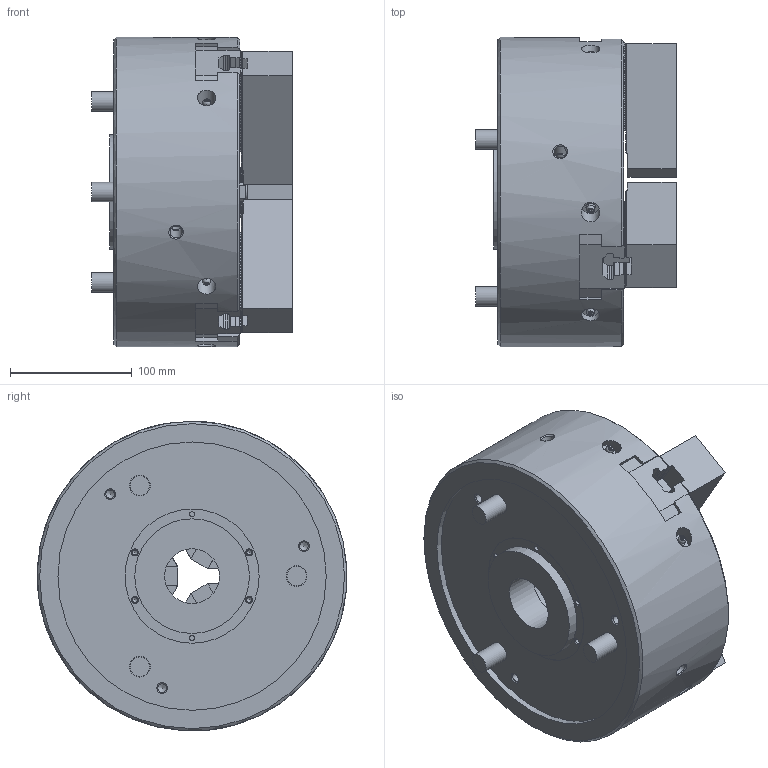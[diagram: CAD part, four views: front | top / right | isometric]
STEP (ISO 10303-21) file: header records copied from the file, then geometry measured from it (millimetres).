
FILE_DESCRIPTION (( 'STEP AP214' ), '1' );
FILE_NAME ('BS310_OC.STEP', '2019-12-23T01:44:31', ( '' ), ( '' ), 'SwSTEP 2.0', 'SolidWorks 2017', '' );
FILE_SCHEMA (( 'AUTOMOTIVE_DESIGN' ));
Length unit declared in the file: millimetre
Products named in the file (18): B傾僫僣僉 M12亊302_~30; BS310^61P242457-2_僋儈僞僥_^_e_棉太倌I佱UA; BS310_OC; 61P417262-1_T僫僢僩b_g; P31633-7_ソフトジョー_W_‡_[; 61P417262-1_T僫僢僩b_g_棉太倌佱UA; P31633-7_ソフトジョー_W_‡_[_ﾃﾞﾌｫﾙﾄ_ATI≪UA; BS310^61P242457-2_クミタテ_^_e; B傾僫僣僉 M12亊302_~30_棉太倌TI佱UA
Assembly tree (13 placements, depth 2):
  B傾僫僣僉 M12亊302_~30
  BS310_OC
    61P417262-1_T僫僢僩b_g_棉太倌佱UA  x3
    P31633-7_ソフトジョー_W_‡_[_ﾃﾞﾌｫﾙﾄ_ATI≪UA  x3
    B傾僫僣僉 M12亊302_~30_棉太倌TI佱UA  x6
    BS310^61P242457-2_僋儈僞僥_^_e_棉太倌I佱UA
  61P417262-1_T僫僢僩b_g
  B傾僫僣僉 M12亊302_~30
  P31633-7_ソフトジョー_W_‡_[
Bounding box: 164.4 x 253.74 x 253.78 mm (x, y, z)
Volume: 5100880.6 mm3; surface area: 370827.4 mm2
Topology: 13 solids, 23 shells, 3003 faces, 8633 edges, 5736 vertices
Faces by surface type: plane 2760, cylinder 131, cone 85, torus 15, sphere 12
Full cylindrical faces by diameter (mm): 1.9 x6, 4.2 x6, 7 x3, 8.5 x3, 9 x6, 10 x3, 10.5 x3, 11 x3, 12 x12, 13 x6, 15 x6, 16 x3, 17 x3, 18 x6, 19 x6, 24 x3, 25 x3, 45 x1, 75 x2, 78 x1, 86 x1, 94 x1, 110 x1, 220 x1, 254 x1
Entity records: 69044 total; most frequent: CARTESIAN_POINT 13474, ORIENTED_EDGE 11892, DIRECTION 10486, EDGE_CURVE 5946, LINE 5402, VECTOR 5402, VERTEX_POINT 4006, AXIS2_PLACEMENT_3D 2542
